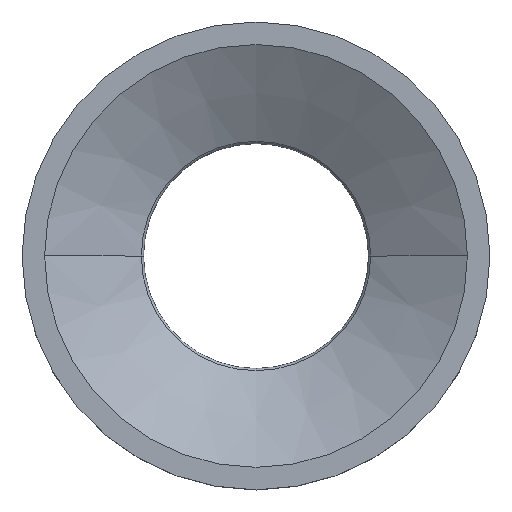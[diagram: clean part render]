
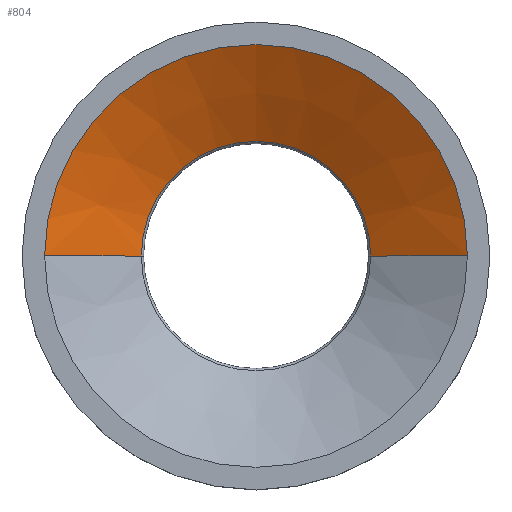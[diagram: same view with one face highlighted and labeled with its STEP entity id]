
A CAD part, top view. The second image highlights one B-rep face of the part: STEP entity #804.
In plain terms, the highlighted conical face has half-angle 60 degrees and reference radius 72.5 mm.
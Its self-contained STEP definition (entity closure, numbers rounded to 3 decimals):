
#112=DIRECTION('',(-0.866,0.,-0.5));
#113=VECTOR('',#112,49.652);
#114=CARTESIAN_POINT('',(94.,0.,42.));
#115=LINE('',#114,#113);
#116=CARTESIAN_POINT('',(0.,0.,17.174));
#117=DIRECTION('',(0.,0.,1.));
#118=DIRECTION('',(1.,0.,0.));
#119=AXIS2_PLACEMENT_3D('',#116,#117,#118);
#121=DIRECTION('',(0.866,0.,-0.5));
#122=VECTOR('',#121,49.652);
#123=CARTESIAN_POINT('',(-94.,0.,
42.));
#124=LINE('',#123,#122);
#140=CARTESIAN_POINT('',(0.,0.,42.));
#141=DIRECTION('',(0.,0.,-1.));
#142=DIRECTION('',(-1.,0.,0.));
#143=AXIS2_PLACEMENT_3D('',#140,#141,#142);
#519=CARTESIAN_POINT('',(94.,0.,
42.));
#520=CARTESIAN_POINT('',(-94.,0.,42.));
#521=VERTEX_POINT('',#519);
#522=VERTEX_POINT('',#520);
#527=CARTESIAN_POINT('',(-51.,0.,
17.174));
#528=CARTESIAN_POINT('',(51.,0.,17.174));
#529=VERTEX_POINT('',#527);
#530=VERTEX_POINT('',#528);
#792=CARTESIAN_POINT('',(0.,0.,29.587));
#793=DIRECTION('',(0.,0.,1.));
#794=DIRECTION('',(0.,-1.,0.));
#795=AXIS2_PLACEMENT_3D('',#792,#793,#794);
#796=CONICAL_SURFACE('',#795,72.5,60.);
#797=ORIENTED_EDGE('',*,*,#757,.T.);
#798=ORIENTED_EDGE('',*,*,#787,.F.);
#800=ORIENTED_EDGE('',*,*,#799,.T.);
#801=ORIENTED_EDGE('',*,*,#783,.T.);
#802=EDGE_LOOP('',(#797,#798,#800,#801));
#803=FACE_OUTER_BOUND('',#802,.F.);
#120=CIRCLE('',#119,51.);
#144=CIRCLE('',#143,94.);
#757=EDGE_CURVE('',#530,#529,#120,.T.);
#783=EDGE_CURVE('',#521,#530,#115,.T.);
#787=EDGE_CURVE('',#522,#529,#124,.T.);
#799=EDGE_CURVE('',#522,#521,#144,.T.);
#804=ADVANCED_FACE('',(#803),#796,.F.);
